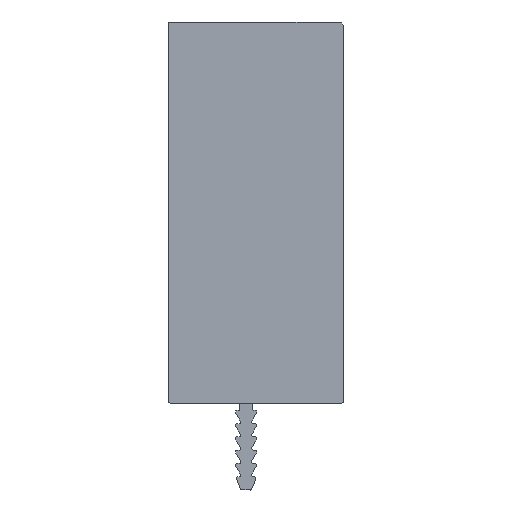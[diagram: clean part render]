
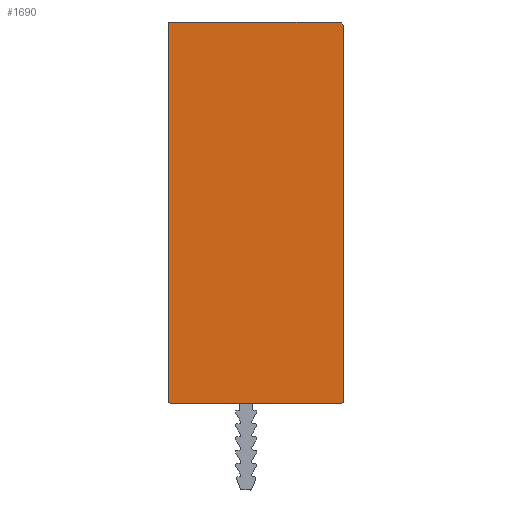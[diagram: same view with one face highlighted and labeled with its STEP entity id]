
A CAD part, left-side view. The second image highlights one B-rep face of the part: STEP entity #1690.
In plain terms, the highlighted planar face has unit normal (-1, 0, 0).
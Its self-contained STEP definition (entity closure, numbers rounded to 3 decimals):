
#738 = VERTEX_POINT( '', #1968 );
#804 = EDGE_CURVE( '', #828, #1570, #2039, .T. );
#828 = VERTEX_POINT( '', #2066 );
#876 = VERTEX_POINT( '', #2123 );
#1020 = EDGE_CURVE( '', #876, #738, #2277, .T. );
#1042 = EDGE_CURVE( '', #1724, #1438, #2300, .T. );
#1128 = VERTEX_POINT( '', #2396 );
#1150 = EDGE_CURVE( '', #1128, #828, #2421, .T. );
#1258 = EDGE_CURVE( '', #738, #1370, #2537, .T. );
#1370 = VERTEX_POINT( '', #2655 );
#1418 = EDGE_CURVE( '', #1438, #876, #2703, .T. );
#1422 = EDGE_CURVE( '', #1570, #1724, #2707, .T. );
#1438 = VERTEX_POINT( '', #2726 );
#1570 = VERTEX_POINT( '', #2873 );
#1690 = ADVANCED_FACE( '', ( #3005 ), #3006, .F. );
#1724 = VERTEX_POINT( '', #3040 );
#1762 = EDGE_CURVE( '', #1370, #1128, #3080, .T. );
#1968 = CARTESIAN_POINT( '', ( 0., -11.75, 44. ) );
#2039 = CIRCLE( '', #3412, 0.2 );
#2066 = CARTESIAN_POINT( '', ( 0., 9.15, -1.5 ) );
#2123 = CARTESIAN_POINT( '', ( 0., -11.25, 44.5 ) );
#2277 = CIRCLE( '', #3743, 0.5 );
#2300 = CIRCLE( '', #3778, 0.2 );
#2396 = CARTESIAN_POINT( '', ( 0., -11.55, -1.5 ) );
#2421 = LINE( '', #3938, #3939 );
#2537 = LINE( '', #4104, #4105 );
#2655 = CARTESIAN_POINT( '', ( 0., -11.75, -1.3 ) );
#2703 = LINE( '', #4348, #4349 );
#2707 = LINE( '', #4356, #4357 );
#2726 = CARTESIAN_POINT( '', ( 0., 9.15, 44.5 ) );
#2873 = CARTESIAN_POINT( '', ( 0., 9.35, -1.3 ) );
#3005 = FACE_OUTER_BOUND( '', #4751, .T. );
#3006 = PLANE( '', #4752 );
#3040 = CARTESIAN_POINT( '', ( 0., 9.35, 44.3 ) );
#3080 = CIRCLE( '', #4856, 0.2 );
#3412 = AXIS2_PLACEMENT_3D( '', #5165, #5166, #5167 );
#3743 = AXIS2_PLACEMENT_3D( '', #5494, #5495, #5496 );
#3778 = AXIS2_PLACEMENT_3D( '', #5518, #5519, #5520 );
#3938 = CARTESIAN_POINT( '', ( 0., -11.55, -1.5 ) );
#3939 = VECTOR( '', #5674, 1. );
#4104 = CARTESIAN_POINT( '', ( 0., -11.75, 44. ) );
#4105 = VECTOR( '', #5786, 1. );
#4348 = CARTESIAN_POINT( '', ( 0., 9.15, 44.5 ) );
#4349 = VECTOR( '', #5977, 1. );
#4356 = CARTESIAN_POINT( '', ( 0., 9.35, -1.3 ) );
#4357 = VECTOR( '', #5979, 1. );
#4751 = EDGE_LOOP( '', ( #6338, #6339, #6340, #6341, #6342, #6343, #6344, #6345 ) );
#4752 = AXIS2_PLACEMENT_3D( '', #6346, #6347, #6348 );
#4856 = AXIS2_PLACEMENT_3D( '', #6401, #6402, #6403 );
#5165 = CARTESIAN_POINT( '', ( 0., 9.15, -1.3 ) );
#5166 = DIRECTION( '', ( 1., 0., 0. ) );
#5167 = DIRECTION( '', ( 0., 0., -1. ) );
#5494 = CARTESIAN_POINT( '', ( 0., -11.25, 44. ) );
#5495 = DIRECTION( '', ( 1., 0., 0. ) );
#5496 = DIRECTION( '', ( 0., 0., 1. ) );
#5518 = CARTESIAN_POINT( '', ( 0., 9.15, 44.3 ) );
#5519 = DIRECTION( '', ( 1., 0., 0. ) );
#5520 = DIRECTION( '', ( 0., 1., 0. ) );
#5674 = DIRECTION( '', ( 0., 1., 0. ) );
#5786 = DIRECTION( '', ( 0., 0., -1. ) );
#5977 = DIRECTION( '', ( 0., -1., 0. ) );
#5979 = DIRECTION( '', ( 0., 0., 1. ) );
#6338 = ORIENTED_EDGE( '', *, *, #1020, .F. );
#6339 = ORIENTED_EDGE( '', *, *, #1418, .F. );
#6340 = ORIENTED_EDGE( '', *, *, #1042, .F. );
#6341 = ORIENTED_EDGE( '', *, *, #1422, .F. );
#6342 = ORIENTED_EDGE( '', *, *, #804, .F. );
#6343 = ORIENTED_EDGE( '', *, *, #1150, .F. );
#6344 = ORIENTED_EDGE( '', *, *, #1762, .F. );
#6345 = ORIENTED_EDGE( '', *, *, #1258, .F. );
#6346 = CARTESIAN_POINT( '', ( 0., 0., 0. ) );
#6347 = DIRECTION( '', ( 1., 0., 0. ) );
#6348 = DIRECTION( '', ( 0., 0., -1. ) );
#6401 = CARTESIAN_POINT( '', ( 0., -11.55, -1.3 ) );
#6402 = DIRECTION( '', ( 1., 0., 0. ) );
#6403 = DIRECTION( '', ( 0., -1., 0. ) );
